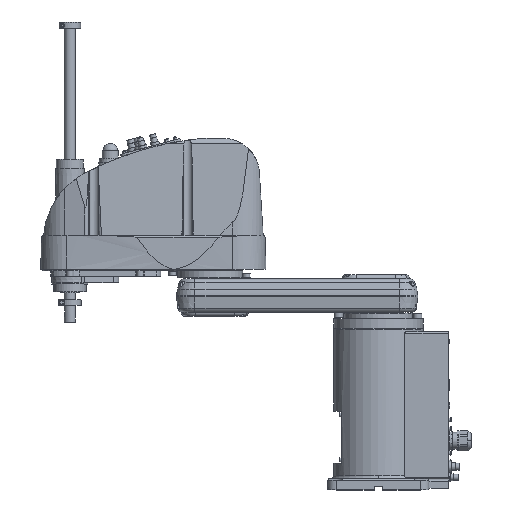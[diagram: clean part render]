
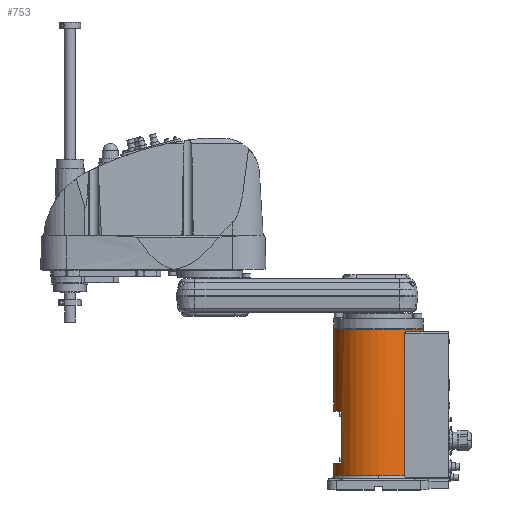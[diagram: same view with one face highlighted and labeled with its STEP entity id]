
A CAD part, top view. The second image highlights one B-rep face of the part: STEP entity #753.
In plain terms, the highlighted cylindrical face has radius 80 mm (diameter 160 mm), a partial arc.
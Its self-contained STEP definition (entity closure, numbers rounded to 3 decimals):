
#753 = ADVANCED_FACE( '', ( #2948 ), #2949, .T. );
#2948 = FACE_OUTER_BOUND( '', #6343, .T. );
#2949 = CYLINDRICAL_SURFACE( '', #6344, 80. );
#6343 = EDGE_LOOP( '', ( #12817, #12818, #12819, #12820, #12821, #12822, #12823, #12824, #12825, #12826, #12827, #12828 ) );
#6344 = AXIS2_PLACEMENT_3D( '', #12829, #12830, #12831 );
#12817 = ORIENTED_EDGE( '', *, *, #21019, .T. );
#12818 = ORIENTED_EDGE( '', *, *, #22337, .F. );
#12819 = ORIENTED_EDGE( '', *, *, #21029, .T. );
#12820 = ORIENTED_EDGE( '', *, *, #22306, .T. );
#12821 = ORIENTED_EDGE( '', *, *, #22308, .T. );
#12822 = ORIENTED_EDGE( '', *, *, #22309, .T. );
#12823 = ORIENTED_EDGE( '', *, *, #21025, .T. );
#12824 = ORIENTED_EDGE( '', *, *, #21037, .T. );
#12825 = ORIENTED_EDGE( '', *, *, #21034, .T. );
#12826 = ORIENTED_EDGE( '', *, *, #22160, .T. );
#12827 = ORIENTED_EDGE( '', *, *, #22157, .T. );
#12828 = ORIENTED_EDGE( '', *, *, #22154, .T. );
#12829 = CARTESIAN_POINT( '', ( 0., 155.75, 0. ) );
#12830 = DIRECTION( '', ( 0., -1., 0. ) );
#12831 = DIRECTION( '', ( 1., 0., 0. ) );
#21019 = EDGE_CURVE( '', #24890, #24882, #24891, .T. );
#21025 = EDGE_CURVE( '', #24902, #24900, #24903, .T. );
#21029 = EDGE_CURVE( '', #24885, #24908, #24910, .T. );
#21034 = EDGE_CURVE( '', #24911, #24918, #24920, .T. );
#21037 = EDGE_CURVE( '', #24900, #24911, #24924, .T. );
#22154 = EDGE_CURVE( '', #26789, #24890, #26790, .T. );
#22157 = EDGE_CURVE( '', #26794, #26789, #26795, .T. );
#22160 = EDGE_CURVE( '', #24918, #26794, #26799, .T. );
#22306 = EDGE_CURVE( '', #24908, #27028, #27030, .T. );
#22308 = EDGE_CURVE( '', #27028, #27031, #27033, .T. );
#22309 = EDGE_CURVE( '', #27031, #24902, #27034, .T. );
#22337 = EDGE_CURVE( '', #24885, #24882, #27077, .T. );
#24882 = VERTEX_POINT( '', #31217 );
#24885 = VERTEX_POINT( '', #31221 );
#24890 = VERTEX_POINT( '', #31227 );
#24891 = LINE( '', #31228, #31229 );
#24900 = VERTEX_POINT( '', #31254 );
#24902 = VERTEX_POINT( '', #31256 );
#24903 = LINE( '', #31257, #31258 );
#24908 = VERTEX_POINT( '', #31264 );
#24910 = LINE( '', #31266, #31267 );
#24911 = VERTEX_POINT( '', #31268 );
#24918 = VERTEX_POINT( '', #31284 );
#24920 = CIRCLE( '', #31299, 80. );
#24924 = CIRCLE( '', #31303, 80. );
#26789 = VERTEX_POINT( '', #33833 );
#26790 = CIRCLE( '', #33834, 80. );
#26794 = VERTEX_POINT( '', #33840 );
#26795 = B_SPLINE_CURVE_WITH_KNOTS( '', 3, ( #33841, #33842, #33843, #33844, #33845, #33846, #33847, #33848, #33849, #33850, #33851, #33852, #33853, #33854, #33855, #33856 ), .UNSPECIFIED., .F., .F., ( 4, 2, 2, 2, 2, 2, 2, 4 ), ( 0., 0.565, 1.13, 1.695, 2.26, 4.16, 5.11, 6.06 ), .UNSPECIFIED. );
#26799 = LINE( '', #33861, #33862 );
#27028 = VERTEX_POINT( '', #34234 );
#27030 = CIRCLE( '', #34237, 80. );
#27031 = VERTEX_POINT( '', #34238 );
#27033 = LINE( '', #34241, #34242 );
#27034 = CIRCLE( '', #34243, 80. );
#27077 = CIRCLE( '', #34302, 80. );
#31217 = CARTESIAN_POINT( '', ( 80., 286.5, 0. ) );
#31221 = CARTESIAN_POINT( '', ( -80., 286.5, 0. ) );
#31227 = CARTESIAN_POINT( '', ( 80., 282., 0. ) );
#31228 = CARTESIAN_POINT( '', ( 80., 155.75, 0. ) );
#31229 = VECTOR( '', #42758, 1. );
#31254 = CARTESIAN_POINT( '', ( -80., 25., 0. ) );
#31256 = CARTESIAN_POINT( '', ( -80., 47.5, 0. ) );
#31257 = CARTESIAN_POINT( '', ( -80., 155.75, 0. ) );
#31258 = VECTOR( '', #42769, 1. );
#31264 = CARTESIAN_POINT( '', ( -80., 140.5, 0. ) );
#31266 = CARTESIAN_POINT( '', ( -80., 155.75, 0. ) );
#31267 = VECTOR( '', #42777, 1. );
#31268 = CARTESIAN_POINT( '', ( 0., 25., 80. ) );
#31284 = CARTESIAN_POINT( '', ( 46.637, 25., 65. ) );
#31299 = AXIS2_PLACEMENT_3D( '', #42784, #42785, #42786 );
#31303 = AXIS2_PLACEMENT_3D( '', #42793, #42794, #42795 );
#33833 = CARTESIAN_POINT( '', ( 50.557, 282., 62. ) );
#33834 = AXIS2_PLACEMENT_3D( '', #44852, #44853, #44854 );
#33840 = CARTESIAN_POINT( '', ( 46.637, 279., 65. ) );
#33841 = CARTESIAN_POINT( '', ( 46.637, 279., 65. ) );
#33842 = CARTESIAN_POINT( '', ( 46.637, 279.188, 65. ) );
#33843 = CARTESIAN_POINT( '', ( 46.662, 279.376, 64.982 ) );
#33844 = CARTESIAN_POINT( '', ( 46.758, 279.739, 64.913 ) );
#33845 = CARTESIAN_POINT( '', ( 46.828, 279.915, 64.863 ) );
#33846 = CARTESIAN_POINT( '', ( 47.002, 280.242, 64.736 ) );
#33847 = CARTESIAN_POINT( '', ( 47.106, 280.395, 64.661 ) );
#33848 = CARTESIAN_POINT( '', ( 47.333, 280.673, 64.495 ) );
#33849 = CARTESIAN_POINT( '', ( 47.455, 280.799, 64.405 ) );
#33850 = CARTESIAN_POINT( '', ( 47.991, 281.279, 64.009 ) );
#33851 = CARTESIAN_POINT( '', ( 48.491, 281.555, 63.632 ) );
#33852 = CARTESIAN_POINT( '', ( 49.269, 281.826, 63.029 ) );
#33853 = CARTESIAN_POINT( '', ( 49.533, 281.893, 62.822 ) );
#33854 = CARTESIAN_POINT( '', ( 50.054, 281.98, 62.407 ) );
#33855 = CARTESIAN_POINT( '', ( 50.312, 282., 62.2 ) );
#33856 = CARTESIAN_POINT( '', ( 50.557, 282., 62. ) );
#33861 = CARTESIAN_POINT( '', ( 46.637, 152., 65. ) );
#33862 = VECTOR( '', #44861, 1. );
#34234 = CARTESIAN_POINT( '', ( -65., 140.5, 46.637 ) );
#34237 = AXIS2_PLACEMENT_3D( '', #45050, #45051, #45052 );
#34238 = CARTESIAN_POINT( '', ( -65., 47.5, 46.637 ) );
#34241 = CARTESIAN_POINT( '', ( -65., 94., 46.637 ) );
#34242 = VECTOR( '', #45054, 1. );
#34243 = AXIS2_PLACEMENT_3D( '', #45055, #45056, #45057 );
#34302 = AXIS2_PLACEMENT_3D( '', #45107, #45108, #45109 );
#42758 = DIRECTION( '', ( 0., 1., 0. ) );
#42769 = DIRECTION( '', ( 0., -1., 0. ) );
#42777 = DIRECTION( '', ( 0., -1., 0. ) );
#42784 = CARTESIAN_POINT( '', ( 0., 25., 0. ) );
#42785 = DIRECTION( '', ( 0., 1., 0. ) );
#42786 = DIRECTION( '', ( 1., 0., 0. ) );
#42793 = CARTESIAN_POINT( '', ( 0., 25., 0. ) );
#42794 = DIRECTION( '', ( 0., 1., 0. ) );
#42795 = DIRECTION( '', ( 1., 0., 0. ) );
#44852 = CARTESIAN_POINT( '', ( 0., 282., 0. ) );
#44853 = DIRECTION( '', ( 0., 1., 0. ) );
#44854 = DIRECTION( '', ( 1., 0., 0. ) );
#44861 = DIRECTION( '', ( 0., 1., 0. ) );
#45050 = CARTESIAN_POINT( '', ( 0., 140.5, 0. ) );
#45051 = DIRECTION( '', ( 0., 1., 0. ) );
#45052 = DIRECTION( '', ( 1., 0., 0. ) );
#45054 = DIRECTION( '', ( 0., -1., 0. ) );
#45055 = CARTESIAN_POINT( '', ( 0., 47.5, 0. ) );
#45056 = DIRECTION( '', ( 0., -1., 0. ) );
#45057 = DIRECTION( '', ( 1., 0., 0. ) );
#45107 = CARTESIAN_POINT( '', ( 0., 286.5, 0. ) );
#45108 = DIRECTION( '', ( 0., 1., 0. ) );
#45109 = DIRECTION( '', ( 1., 0., 0. ) );
